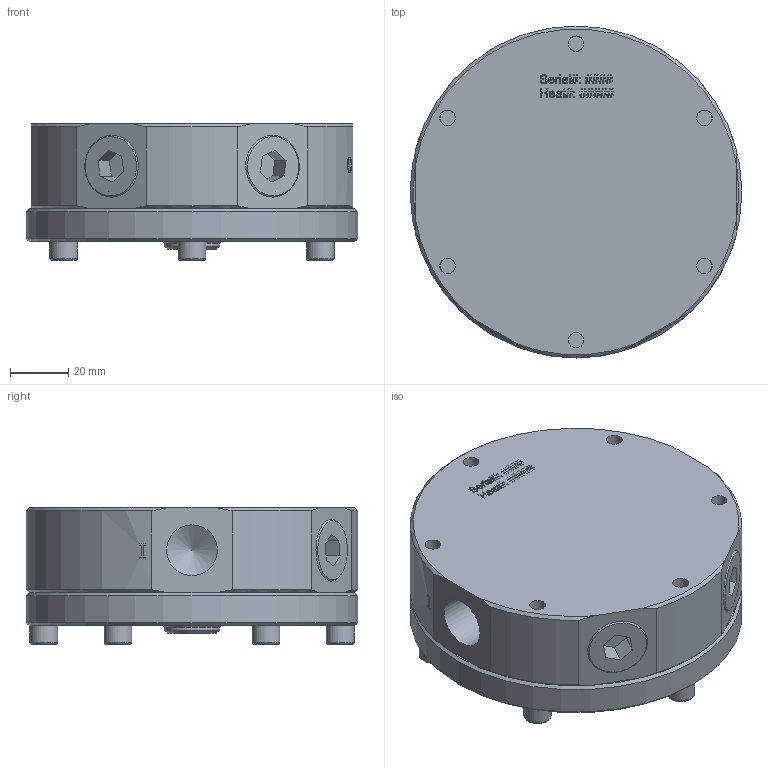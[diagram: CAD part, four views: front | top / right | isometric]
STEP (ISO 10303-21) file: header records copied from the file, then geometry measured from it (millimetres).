
FILE_DESCRIPTION(/* description */ (''),/* implementation_level */ '2;1');
FILE_NAME(/* name */ 'C:\Users\mkowall\Equilibar Network Dropbox\Models\GS(D) Series\GS4\GSD4SNT5A External Assembly.stp',/* time_stamp */ '2022-07-20T11:55:38-04:00',/* author */ ('mkowall'),/* organization */ (''),/* preprocessor_version */ 'ST-DEVELOPER v18.1',/* originating_system */ 'Autodesk Inventor 2021',/* authorisation */ '');
FILE_SCHEMA (('AUTOMOTIVE_DESIGN { 1 0 10303 214 3 1 1 }'));
Length unit declared in the file: inch
Products named in the file (1): Part10
Bounding box: 114.3 x 114.3 x 46.99 mm (x, y, z)
Volume: 350568.1 mm3; surface area: 82009.7 mm2
Topology: 10 solids, 10 shells, 805 faces, 2517 edges, 1826 vertices
Faces by surface type: plane 606, bspline 95, cylinder 48, cone 38, torus 18
Full cylindrical faces by diameter (mm): 5.359 x6, 6.35 x6, 6.528 x6, 7.95 x1, 9.525 x6, 17.462 x6, 19.05 x1, 80.391 x1, 85.293 x1, 86.716 x1, 91.592 x1, 114.3 x1
Entity records: 30110 total; most frequent: CARTESIAN_POINT 7203, ORIENTED_EDGE 5016, DIRECTION 3831, EDGE_CURVE 2508, LINE 2011, VECTOR 2011, VERTEX_POINT 1826, EDGE_LOOP 938
